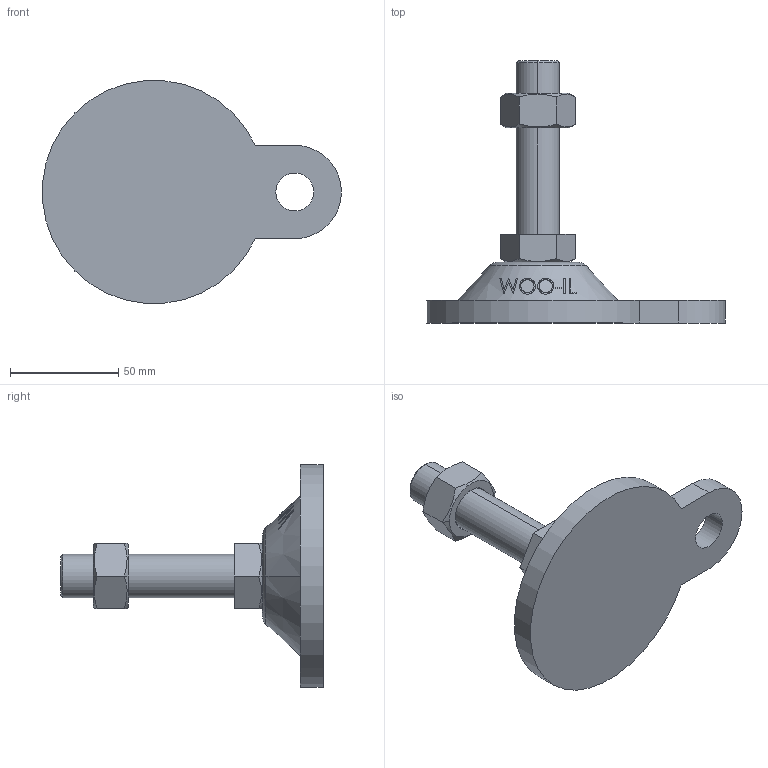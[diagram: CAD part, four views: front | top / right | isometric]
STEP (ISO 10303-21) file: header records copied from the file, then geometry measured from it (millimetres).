
FILE_DESCRIPTION (( 'STEP AP214' ), '1' );
FILE_NAME ('ARB103-M20-80.step', '2021-03-25T00:41:52', ( '' ), ( '' ), 'SwSTEP 2.0', 'SolidWorks 2019', '' );
FILE_SCHEMA (( 'AUTOMOTIVE_DESIGN' ));
Length unit declared in the file: millimetre
Products named in the file (2): ARB103-M20-80
Bounding box: 137.8 x 121 x 102.64 mm (x, y, z)
Volume: 188857.7 mm3; surface area: 36177.2 mm2
Topology: 3 solids, 3 shells, 97 faces, 229 edges, 148 vertices
Faces by surface type: plane 49, cone 22, bspline 16, cylinder 8, torus 2
Entity records: 4424 total; most frequent: CARTESIAN_POINT 2262, ORIENTED_EDGE 458, DIRECTION 375, EDGE_CURVE 229, VERTEX_POINT 148, AXIS2_PLACEMENT_3D 143, EDGE_LOOP 111, FACE_OUTER_BOUND 97
